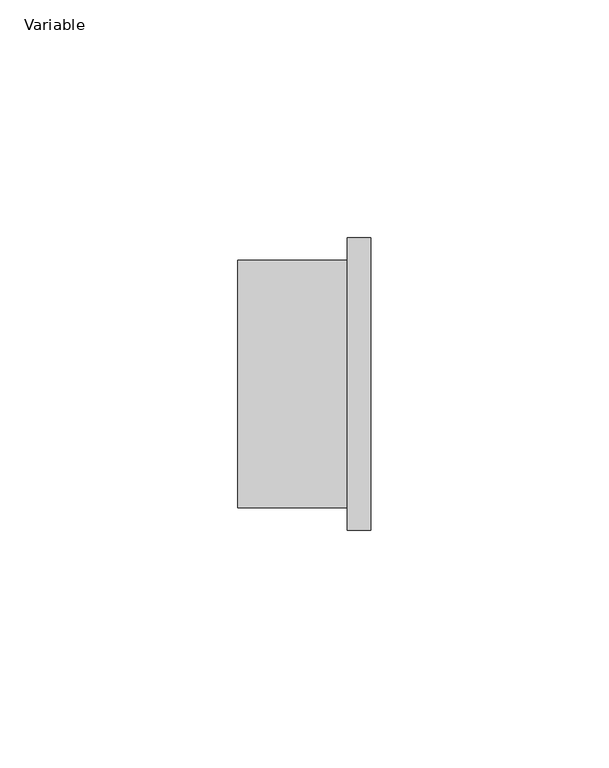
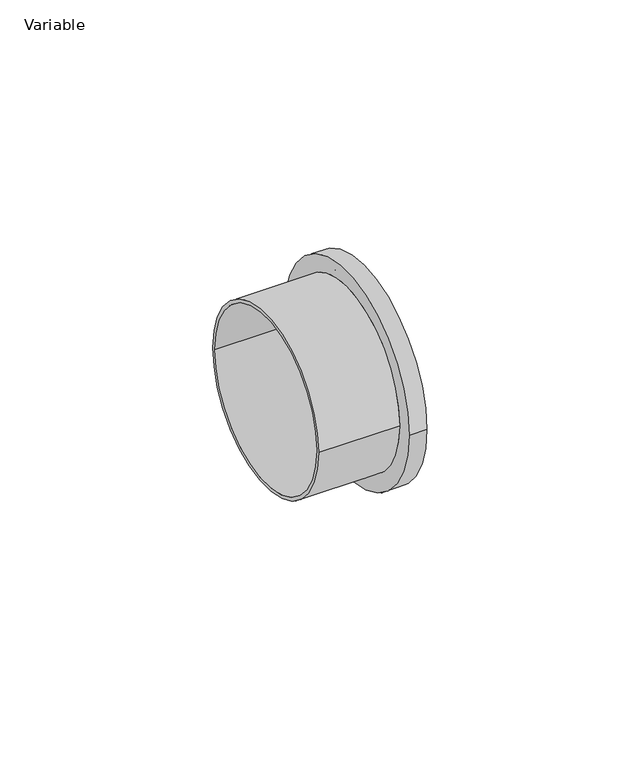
"""IFC4 building model written with IfcOpenShell, lengths in millimetres: pipe fitting geometry, AliaxisFR_Friaphon_TransitionAdaptor_FR : Variable."""

from ifc_helpers import new_model, si_unit, frame, origin, place, context, project, spatial, polyline, circle_curve, source, transform, mapped, element, save
from ifc_brep_helpers import plane_surface, cylinder_surface, revolved_surface, advanced_brep


def variable_40131fce(model_context):
    return source(origin(), model_context, "Body", "AdvancedBrep", [
        advanced_brep(
        [(28.0, -30.75, 0.0), (28.0, 30.75, 0.0), (28.0, -25.0, 0.0), (28.0, 25.0, 0.0), (0.0, -26.0, 0.0), (0.0, 26.0, 0.0), (0.0, -25.0, 0.0), (0.0, 25.0, 0.0), (23.0, 26.0, 0.0), (23.0, -26.0, 0.0), (23.0, -30.75, 0.0), (23.0, 30.75, 0.0)],
        [
            (0, 1, circle_curve(frame((28.0, 0.0, 0.0), z_axis=(1.0, 0.0, 0.0), x_axis=(0.0, 1.0, 0.0)), 30.75)),
            (1, 0, circle_curve(frame((28.0, 0.0, 0.0), z_axis=(1.0, 0.0, 0.0), x_axis=(0.0, 1.0, 0.0)), 30.75)),
            (2, 3, circle_curve(frame((28.0, 0.0, 0.0), z_axis=(-1.0, 0.0, 0.0), x_axis=(0.0, 1.0, 0.0)), 25.0)),
            (3, 2, circle_curve(frame((28.0, 0.0, 0.0), z_axis=(-1.0, 0.0, 0.0), x_axis=(0.0, 1.0, 0.0)), 25.0)),
            (4, 5, circle_curve(frame((0.0, 0.0, 0.0), z_axis=(-1.0, 0.0, 0.0), x_axis=(0.0, 1.0, 0.0)), 26.0)),
            (5, 4, circle_curve(frame((0.0, 0.0, 0.0), z_axis=(-1.0, 0.0, 0.0), x_axis=(0.0, 1.0, 0.0)), 26.0)),
            (6, 7, circle_curve(frame((0.0, 0.0, 0.0), z_axis=(1.0, 0.0, 0.0), x_axis=(0.0, 1.0, 0.0)), 25.0)),
            (7, 6, circle_curve(frame((0.0, 0.0, 0.0), z_axis=(1.0, 0.0, 0.0), x_axis=(0.0, 1.0, 0.0)), 25.0)),
            (2, 6),
            (7, 3),
            (5, 8),
            (8, 9, circle_curve(frame((23.0, 0.0, 0.0), z_axis=(-1.0, 0.0, 0.0), x_axis=(0.0, 1.0, 0.0)), 26.0)),
            (9, 4),
            (9, 8, circle_curve(frame((23.0, 0.0, 0.0), z_axis=(-1.0, 0.0, 0.0), x_axis=(0.0, 1.0, 0.0)), 26.0)),
            (10, 11, circle_curve(frame((23.0, 0.0, 0.0), z_axis=(-1.0, 0.0, 0.0), x_axis=(0.0, 1.0, 0.0)), 30.75)),
            (11, 10, circle_curve(frame((23.0, 0.0, 0.0), z_axis=(-1.0, 0.0, 0.0), x_axis=(0.0, 1.0, 0.0)), 30.75)),
            (0, 10),
            (11, 1),
        ],
        [
            plane_surface(frame((28.0, 25.0, 0.0), z_axis=(1.0, 0.0, 0.0), x_axis=(0.0, 0.0, -1.0))),
            plane_surface(frame((0.0, 25.0, 0.0), z_axis=(-1.0, 0.0, 0.0), x_axis=(0.0, 0.0, 1.0))),
            revolved_surface(polyline([(0.0, 25.0, 0.0), (28.0, 25.0, 0.0)]), (0.0, 0.0, 0.0), (-1.0, 0.0, 0.0)),
            cylinder_surface(frame((0.0, 0.0, 0.0), z_axis=(1.0, 0.0, 0.0), x_axis=(0.0, 1.0, 0.0)), 26.0),
            plane_surface(frame((23.0, 30.75, 0.0), z_axis=(-1.0, 0.0, 0.0), x_axis=(0.0, 0.0, -1.0))),
            cylinder_surface(frame((23.0, 0.0, 0.0), z_axis=(1.0, 0.0, 0.0), x_axis=(0.0, 1.0, 0.0)), 30.75),
        ],
        [
            (0, [[1, 2], [3, 4]]),
            (1, [[5, 6], [7, 8]]),
            (2, [[-3, 9, -8, 10]]),
            (2, [[-4, -10, -7, -9]]),
            (3, [[-6, 11, 12, 13]]),
            (3, [[-5, -13, 14, -11]]),
            (4, [[15, 16], [-12, -14]]),
            (5, [[-1, 17, -16, 18]]),
            (5, [[-2, -18, -15, -17]]),
        ],
    ),
    ])


if __name__ == "__main__":
    model = new_model("IFC4")
    model_context = context("Model", 3, world=origin())
    ifc_project = project(units=[si_unit("LENGTHUNIT", "METRE", prefix="MILLI")], contexts=[model_context])
    site = spatial("IfcSite", under=ifc_project)
    building = spatial("IfcBuilding", under=site)
    placement = place(None, origin())
    variable_shape = variable_40131fce(model_context)
    element("IfcPipeFitting", 1, ObjectType="AliaxisFR_Friaphon_TransitionAdaptor_FR : Variable", at=placement, inside=building, context=model_context, shape_type="MappedRepresentation", body=[
        mapped(variable_shape, transform((0.0, 0.0, 0.0), x_axis=(1.0, 0.0, 0.0), y_axis=(0.0, 1.0, 0.0), z_axis=(0.0, 0.0, 1.0))),
    ])
    save(model, "model.ifc")
